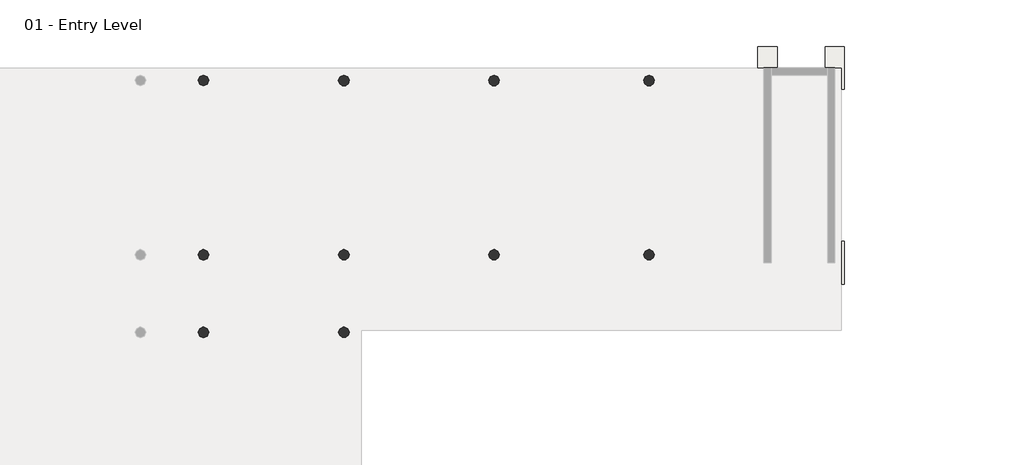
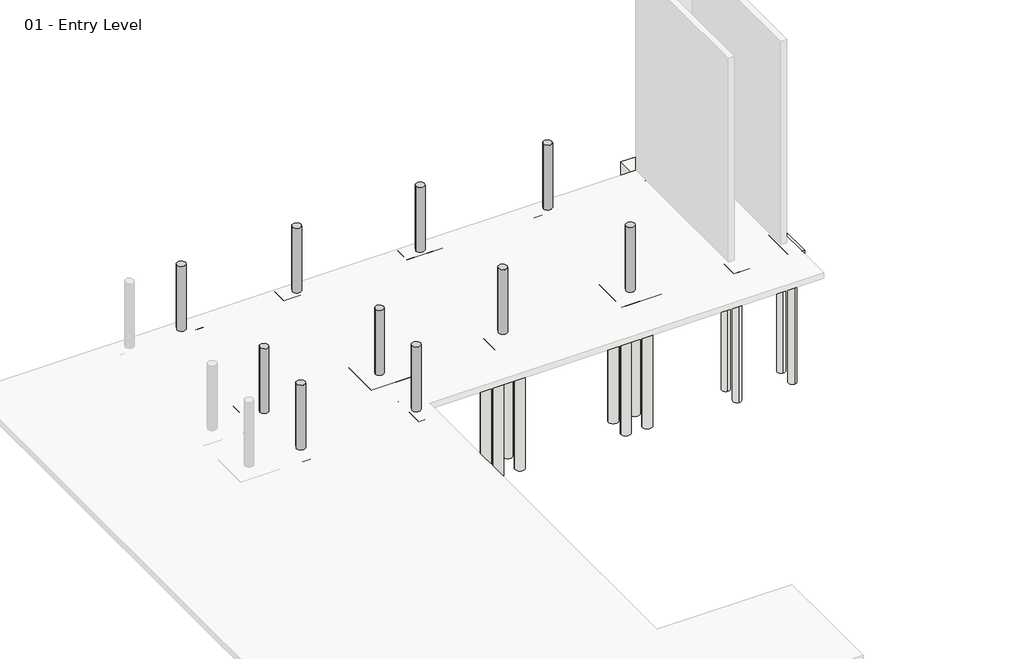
# One storey, part 6 of 6: 52 slabs, 10 columns.
"""IFC4 building model written with IfcOpenShell, lengths in millimetres."""

from ifc_helpers import new_model, si_unit, point, frame, frame_2d, origin, origin_with_axes, place, context, project, spatial, polyline, circle_curve, trimmed, segment, composite_curve, outline, extrude, element, save

model = new_model("IFC4")

# Units and contexts
model_context = context("Model", 3, world=origin())
ifc_project = project(units=[si_unit("LENGTHUNIT", "METRE", prefix="MILLI")], contexts=[model_context])

# Site, building, storey
site = spatial("IfcSite", under=ifc_project)
building = spatial("IfcBuilding", under=site)
storey = spatial("IfcBuildingStorey", under=building, Name="01 - Entry Level", Elevation=0.0)

# Columns
placement = place(None, origin())
element("IfcColumn", 1, ObjectType="M_Concrete-Round-Column : 450mm", at=placement, inside=storey, context=model_context, shape_type="SweptSolid", body=[
    extrude(outline(composite_curve([segment(trimmed(circle_curve(frame_2d((754.8005584, 29993.7386199)), 225.0), [point((979.8005584, 29993.7386199))], [point((529.8005584, 29993.7386199))], False, "CARTESIAN"), True, "CONTINUOUS"), segment(trimmed(circle_curve(frame_2d((754.8005584, 29993.7386199)), 225.0), [point((529.8005584, 29993.7386199))], [point((979.8005584, 29993.7386199))], False, "CARTESIAN"), True, "CONTINUOUS")], self_intersect=False)), origin_with_axes(), (0.0, 0.0, 1.0), 3500.0),
])
element("IfcColumn", 2, ObjectType="M_Concrete-Round-Column : 450mm", at=placement, inside=storey, context=model_context, shape_type="SweptSolid", body=[
    extrude(outline(composite_curve([segment(trimmed(circle_curve(frame_2d((754.8005584, 22678.5386199)), 225.0), [point((979.8005584, 22678.5386199))], [point((529.8005584, 22678.5386199))], False, "CARTESIAN"), True, "CONTINUOUS"), segment(trimmed(circle_curve(frame_2d((754.8005584, 22678.5386199)), 225.0), [point((529.8005584, 22678.5386199))], [point((979.8005584, 22678.5386199))], False, "CARTESIAN"), True, "CONTINUOUS")], self_intersect=False)), origin_with_axes(), (0.0, 0.0, 1.0), 3500.0),
])
element("IfcColumn", 3, ObjectType="M_Concrete-Round-Column : 450mm", at=placement, inside=storey, context=model_context, shape_type="SweptSolid", body=[
    extrude(outline(composite_curve([segment(trimmed(circle_curve(frame_2d((754.8005584, 19427.3386199)), 225.0), [point((979.8005584, 19427.3386199))], [point((529.8005584, 19427.3386199))], False, "CARTESIAN"), True, "CONTINUOUS"), segment(trimmed(circle_curve(frame_2d((754.8005584, 19427.3386199)), 225.0), [point((529.8005584, 19427.3386199))], [point((979.8005584, 19427.3386199))], False, "CARTESIAN"), True, "CONTINUOUS")], self_intersect=False)), origin_with_axes(), (0.0, 0.0, 1.0), 3500.0),
])
element("IfcColumn", 4, ObjectType="M_Concrete-Round-Column : 450mm", at=placement, inside=storey, context=model_context, shape_type="SweptSolid", body=[
    extrude(outline(composite_curve([segment(trimmed(circle_curve(frame_2d((6647.6005584, 29993.7386199)), 225.0), [point((6872.6005584, 29993.7386199))], [point((6422.6005584, 29993.7386199))], False, "CARTESIAN"), True, "CONTINUOUS"), segment(trimmed(circle_curve(frame_2d((6647.6005584, 29993.7386199)), 225.0), [point((6422.6005584, 29993.7386199))], [point((6872.6005584, 29993.7386199))], False, "CARTESIAN"), True, "CONTINUOUS")], self_intersect=False)), origin_with_axes(), (0.0, 0.0, 1.0), 3500.0),
])
element("IfcColumn", 5, ObjectType="M_Concrete-Round-Column : 450mm", at=placement, inside=storey, context=model_context, shape_type="SweptSolid", body=[
    extrude(outline(composite_curve([segment(trimmed(circle_curve(frame_2d((6647.6005584, 22678.5386199)), 225.0), [point((6872.6005584, 22678.5386199))], [point((6422.6005584, 22678.5386199))], False, "CARTESIAN"), True, "CONTINUOUS"), segment(trimmed(circle_curve(frame_2d((6647.6005584, 22678.5386199)), 225.0), [point((6422.6005584, 22678.5386199))], [point((6872.6005584, 22678.5386199))], False, "CARTESIAN"), True, "CONTINUOUS")], self_intersect=False)), origin_with_axes(), (0.0, 0.0, 1.0), 3500.0),
])
element("IfcColumn", 6, ObjectType="M_Concrete-Round-Column : 450mm", at=placement, inside=storey, context=model_context, shape_type="SweptSolid", body=[
    extrude(outline(composite_curve([segment(trimmed(circle_curve(frame_2d((6647.6005584, 19427.3386199)), 225.0), [point((6872.6005584, 19427.3386199))], [point((6422.6005584, 19427.3386199))], False, "CARTESIAN"), True, "CONTINUOUS"), segment(trimmed(circle_curve(frame_2d((6647.6005584, 19427.3386199)), 225.0), [point((6422.6005584, 19427.3386199))], [point((6872.6005584, 19427.3386199))], False, "CARTESIAN"), True, "CONTINUOUS")], self_intersect=False)), origin_with_axes(), (0.0, 0.0, 1.0), 3500.0),
])
element("IfcColumn", 7, ObjectType="M_Concrete-Round-Column : 450mm", at=placement, inside=storey, context=model_context, shape_type="SweptSolid", body=[
    extrude(outline(composite_curve([segment(trimmed(circle_curve(frame_2d((12946.8005584, 29993.7386199)), 225.0), [point((13171.8005584, 29993.7386199))], [point((12721.8005584, 29993.7386199))], False, "CARTESIAN"), True, "CONTINUOUS"), segment(trimmed(circle_curve(frame_2d((12946.8005584, 29993.7386199)), 225.0), [point((12721.8005584, 29993.7386199))], [point((13171.8005584, 29993.7386199))], False, "CARTESIAN"), True, "CONTINUOUS")], self_intersect=False)), origin_with_axes(), (0.0, 0.0, 1.0), 3500.0),
])
element("IfcColumn", 8, ObjectType="M_Concrete-Round-Column : 450mm", at=placement, inside=storey, context=model_context, shape_type="SweptSolid", body=[
    extrude(outline(composite_curve([segment(trimmed(circle_curve(frame_2d((12946.8005584, 22678.5386199)), 225.0), [point((13171.8005584, 22678.5386199))], [point((12721.8005584, 22678.5386199))], False, "CARTESIAN"), True, "CONTINUOUS"), segment(trimmed(circle_curve(frame_2d((12946.8005584, 22678.5386199)), 225.0), [point((12721.8005584, 22678.5386199))], [point((13171.8005584, 22678.5386199))], False, "CARTESIAN"), True, "CONTINUOUS")], self_intersect=False)), origin_with_axes(), (0.0, 0.0, 1.0), 3500.0),
])
element("IfcColumn", 9, ObjectType="M_Concrete-Round-Column : 450mm", at=placement, inside=storey, context=model_context, shape_type="SweptSolid", body=[
    extrude(outline(composite_curve([segment(trimmed(circle_curve(frame_2d((19449.2005584, 29993.7386199)), 225.0), [point((19674.2005584, 29993.7386199))], [point((19224.2005584, 29993.7386199))], False, "CARTESIAN"), True, "CONTINUOUS"), segment(trimmed(circle_curve(frame_2d((19449.2005584, 29993.7386199)), 225.0), [point((19224.2005584, 29993.7386199))], [point((19674.2005584, 29993.7386199))], False, "CARTESIAN"), True, "CONTINUOUS")], self_intersect=False)), origin_with_axes(), (0.0, 0.0, 1.0), 3500.0),
])
element("IfcColumn", 10, ObjectType="M_Concrete-Round-Column : 450mm", at=placement, inside=storey, context=model_context, shape_type="SweptSolid", body=[
    extrude(outline(composite_curve([segment(trimmed(circle_curve(frame_2d((19449.2005584, 22678.5386199)), 225.0), [point((19674.2005584, 22678.5386199))], [point((19224.2005584, 22678.5386199))], False, "CARTESIAN"), True, "CONTINUOUS"), segment(trimmed(circle_curve(frame_2d((19449.2005584, 22678.5386199)), 225.0), [point((19224.2005584, 22678.5386199))], [point((19674.2005584, 22678.5386199))], False, "CARTESIAN"), True, "CONTINUOUS")], self_intersect=False)), origin_with_axes(), (0.0, 0.0, 1.0), 3500.0),
])

# Slabs
element("IfcSlab", 11, ObjectType="M_Pile Cap-2 Pile : 800 x 1800 x 900mm", at=placement, inside=storey, context=model_context, shape_type="SweptSolid", body=[
    extrude(outline(polyline([(1654.8005584, 30393.7386199), (1654.8005584, 29593.7386199), (-145.1994416, 29593.7386199), (-145.1994416, 30393.7386199), (1654.8005584, 30393.7386199)])), frame((0.0, 0.0, -1200.0), z_axis=(0.0, 0.0, 1.0), x_axis=(1.0, 0.0, 0.0)), (0.0, 0.0, 1.0), 1200.0),
])
element("IfcSlab", 12, ObjectType="M_Pile Cap-2 Pile : 800 x 1800 x 900mm", at=placement, inside=storey, context=model_context, shape_type="SweptSolid", body=[
    extrude(outline(polyline([(7547.6005584, 30393.7386199), (7547.6005584, 29593.7386199), (5747.6005584, 29593.7386199), (5747.6005584, 30393.7386199), (7547.6005584, 30393.7386199)])), frame((0.0, 0.0, -1200.0), z_axis=(0.0, 0.0, 1.0), x_axis=(1.0, 0.0, 0.0)), (0.0, 0.0, 1.0), 1200.0),
])
element("IfcSlab", 13, ObjectType="M_Pile Cap-2 Pile : 800 x 1800 x 900mm", at=placement, inside=storey, context=model_context, shape_type="SweptSolid", body=[
    extrude(outline(polyline([(13846.8005584, 30393.7386199), (13846.8005584, 29593.7386199), (12046.8005584, 29593.7386199), (12046.8005584, 30393.7386199), (13846.8005584, 30393.7386199)])), frame((0.0, 0.0, -1200.0), z_axis=(0.0, 0.0, 1.0), x_axis=(1.0, 0.0, 0.0)), (0.0, 0.0, 1.0), 1200.0),
])
element("IfcSlab", 14, ObjectType="M_Pile Cap-2 Pile : 800 x 1800 x 900mm", at=placement, inside=storey, context=model_context, shape_type="SweptSolid", body=[
    extrude(outline(polyline([(20349.2005584, 30393.7386199), (20349.2005584, 29593.7386199), (18549.2005584, 29593.7386199), (18549.2005584, 30393.7386199), (20349.2005584, 30393.7386199)])), frame((0.0, 0.0, -1200.0), z_axis=(0.0, 0.0, 1.0), x_axis=(1.0, 0.0, 0.0)), (0.0, 0.0, 1.0), 1200.0),
])
element("IfcSlab", 15, ObjectType="M_Pile Cap-2 Pile : 800 x 1800 x 900mm", at=placement, inside=storey, context=model_context, shape_type="SweptSolid", body=[
    extrude(outline(polyline([(24018.8999097, 23239.0407562), (24818.8999097, 23239.0407562), (24818.8999097, 21439.0407562), (24018.8999097, 21439.0407562), (24018.8999097, 23239.0407562)])), frame((0.0, 0.0, -1200.0), z_axis=(0.0, 0.0, 1.0), x_axis=(1.0, 0.0, 0.0)), (0.0, 0.0, 1.0), 1200.0),
])
element("IfcSlab", 16, ObjectType="M_Pile Cap-2 Pile : 800 x 1800 x 900mm", at=placement, inside=storey, context=model_context, shape_type="SweptSolid", body=[
    extrude(outline(polyline([(26846.5321953, 23239.0407562), (27646.5321953, 23239.0407562), (27646.5321953, 21439.0407562), (26846.5321953, 21439.0407562), (26846.5321953, 23239.0407562)])), frame((0.0, 0.0, -1200.0), z_axis=(0.0, 0.0, 1.0), x_axis=(1.0, 0.0, 0.0)), (0.0, 0.0, 1.0), 1200.0),
])
element("IfcSlab", 17, ObjectType="M_Pile Cap-2 Pile : 800 x 1800 x 900mm", at=placement, inside=storey, context=model_context, shape_type="SweptSolid", body=[
    extrude(outline(polyline([(24018.8999097, 31414.0407562), (24818.8999097, 31414.0407562), (24818.8999097, 29614.0407562), (24018.8999097, 29614.0407562), (24018.8999097, 31414.0407562)])), frame((0.0, 0.0, -1200.0), z_axis=(0.0, 0.0, 1.0), x_axis=(1.0, 0.0, 0.0)), (0.0, 0.0, 1.0), 1200.0),
])
element("IfcSlab", 18, ObjectType="M_Pile Cap-2 Pile : 800 x 1800 x 900mm", at=placement, inside=storey, context=model_context, shape_type="SweptSolid", body=[
    extrude(outline(polyline([(26846.5321953, 31414.0407562), (27646.5321953, 31414.0407562), (27646.5321953, 29614.0407562), (26846.5321953, 29614.0407562), (26846.5321953, 31414.0407562)])), frame((0.0, 0.0, -1200.0), z_axis=(0.0, 0.0, 1.0), x_axis=(1.0, 0.0, 0.0)), (0.0, 0.0, 1.0), 1200.0),
])
element("IfcSlab", 19, ObjectType="M_Pile Cap-2 Pile : 800 x 1800 x 900mm", at=placement, inside=storey, context=model_context, shape_type="SweptSolid", body=[
    extrude(outline(polyline([(6247.6005584, 20327.3386199), (7047.6005584, 20327.3386199), (7047.6005584, 18527.3386199), (6247.6005584, 18527.3386199), (6247.6005584, 20327.3386199)])), frame((0.0, 0.0, -1200.0), z_axis=(0.0, 0.0, 1.0), x_axis=(1.0, 0.0, 0.0)), (0.0, 0.0, 1.0), 1200.0),
])
element("IfcSlab", 20, ObjectType="M_Pile Cap-4 Pile : 2000 x 2000 x 900mm", at=placement, inside=storey, context=model_context, shape_type="SweptSolid", body=[
    extrude(outline(polyline([(1754.8005584, 23678.5386199), (1754.8005584, 21678.5386199), (-245.1994416, 21678.5386199), (-245.1994416, 23678.5386199), (1754.8005584, 23678.5386199)])), frame((0.0, 0.0, -1200.0), z_axis=(0.0, 0.0, 1.0), x_axis=(1.0, 0.0, 0.0)), (0.0, 0.0, 1.0), 1200.0),
])
element("IfcSlab", 21, ObjectType="M_Pile Cap-4 Pile : 2000 x 2000 x 900mm", at=placement, inside=storey, context=model_context, shape_type="SweptSolid", body=[
    extrude(outline(polyline([(7647.6005584, 23678.5386199), (7647.6005584, 21678.5386199), (5647.6005584, 21678.5386199), (5647.6005584, 23678.5386199), (7647.6005584, 23678.5386199)])), frame((0.0, 0.0, -1200.0), z_axis=(0.0, 0.0, 1.0), x_axis=(1.0, 0.0, 0.0)), (0.0, 0.0, 1.0), 1200.0),
])
element("IfcSlab", 22, ObjectType="M_Pile Cap-4 Pile : 2000 x 2000 x 900mm", at=placement, inside=storey, context=model_context, shape_type="SweptSolid", body=[
    extrude(outline(polyline([(13946.8005584, 23678.5386199), (13946.8005584, 21678.5386199), (11946.8005584, 21678.5386199), (11946.8005584, 23678.5386199), (13946.8005584, 23678.5386199)])), frame((0.0, 0.0, -1200.0), z_axis=(0.0, 0.0, 1.0), x_axis=(1.0, 0.0, 0.0)), (0.0, 0.0, 1.0), 1200.0),
])
element("IfcSlab", 23, ObjectType="M_Pile Cap-4 Pile : 2000 x 2000 x 900mm", at=placement, inside=storey, context=model_context, shape_type="SweptSolid", body=[
    extrude(outline(polyline([(20449.2005584, 23678.5386199), (20449.2005584, 21678.5386199), (18449.2005584, 21678.5386199), (18449.2005584, 23678.5386199), (20449.2005584, 23678.5386199)])), frame((0.0, 0.0, -1200.0), z_axis=(0.0, 0.0, 1.0), x_axis=(1.0, 0.0, 0.0)), (0.0, 0.0, 1.0), 1200.0),
])
element("IfcSlab", 24, ObjectType="M_Pile Cap-4 Pile : 2000 x 2000 x 900mm", at=placement, inside=storey, context=model_context, shape_type="SweptSolid", body=[
    extrude(outline(polyline([(1754.8005584, 20427.3386199), (1754.8005584, 18427.3386199), (-245.1994416, 18427.3386199), (-245.1994416, 20427.3386199), (1754.8005584, 20427.3386199)])), frame((0.0, 0.0, -1200.0), z_axis=(0.0, 0.0, 1.0), x_axis=(1.0, 0.0, 0.0)), (0.0, 0.0, 1.0), 1200.0),
])
element("IfcSlab", 25, ObjectType="M_Pile-Steel Pipe : 400mm Diameter", at=placement, inside=storey, context=model_context, shape_type="SweptSolid", body=[
    extrude(outline(composite_curve([segment(trimmed(circle_curve(frame_2d((254.8005584, 29993.7386199)), 200.0), [point((54.8005584, 29993.7386199))], [point((454.8005584, 29993.7386199))], False, "CARTESIAN"), True, "CONTINUOUS"), segment(trimmed(circle_curve(frame_2d((254.8005584, 29993.7386199)), 200.0), [point((454.8005584, 29993.7386199))], [point((54.8005584, 29993.7386199))], False, "CARTESIAN"), True, "CONTINUOUS")], self_intersect=False)), frame((0.0, 0.0, -7200.0), z_axis=(0.0, 0.0, 1.0), x_axis=(1.0, 0.0, 0.0)), (0.0, 0.0, 1.0), 6000.0),
])
element("IfcSlab", 26, ObjectType="M_Pile-Steel Pipe : 400mm Diameter", at=placement, inside=storey, context=model_context, shape_type="SweptSolid", body=[
    extrude(outline(composite_curve([segment(trimmed(circle_curve(frame_2d((1254.8005584, 29993.7386199)), 200.0), [point((1054.8005584, 29993.7386199))], [point((1454.8005584, 29993.7386199))], False, "CARTESIAN"), True, "CONTINUOUS"), segment(trimmed(circle_curve(frame_2d((1254.8005584, 29993.7386199)), 200.0), [point((1454.8005584, 29993.7386199))], [point((1054.8005584, 29993.7386199))], False, "CARTESIAN"), True, "CONTINUOUS")], self_intersect=False)), frame((0.0, 0.0, -7200.0), z_axis=(0.0, 0.0, 1.0), x_axis=(1.0, 0.0, 0.0)), (0.0, 0.0, 1.0), 6000.0),
])
element("IfcSlab", 27, ObjectType="M_Pile-Steel Pipe : 400mm Diameter", at=placement, inside=storey, context=model_context, shape_type="SweptSolid", body=[
    extrude(outline(composite_curve([segment(trimmed(circle_curve(frame_2d((6147.6005584, 29993.7386199)), 200.0), [point((5947.6005584, 29993.7386199))], [point((6347.6005584, 29993.7386199))], False, "CARTESIAN"), True, "CONTINUOUS"), segment(trimmed(circle_curve(frame_2d((6147.6005584, 29993.7386199)), 200.0), [point((6347.6005584, 29993.7386199))], [point((5947.6005584, 29993.7386199))], False, "CARTESIAN"), True, "CONTINUOUS")], self_intersect=False)), frame((0.0, 0.0, -7200.0), z_axis=(0.0, 0.0, 1.0), x_axis=(1.0, 0.0, 0.0)), (0.0, 0.0, 1.0), 6000.0),
])
element("IfcSlab", 28, ObjectType="M_Pile-Steel Pipe : 400mm Diameter", at=placement, inside=storey, context=model_context, shape_type="SweptSolid", body=[
    extrude(outline(composite_curve([segment(trimmed(circle_curve(frame_2d((7147.6005584, 29993.7386199)), 200.0), [point((6947.6005584, 29993.7386199))], [point((7347.6005584, 29993.7386199))], False, "CARTESIAN"), True, "CONTINUOUS"), segment(trimmed(circle_curve(frame_2d((7147.6005584, 29993.7386199)), 200.0), [point((7347.6005584, 29993.7386199))], [point((6947.6005584, 29993.7386199))], False, "CARTESIAN"), True, "CONTINUOUS")], self_intersect=False)), frame((0.0, 0.0, -7200.0), z_axis=(0.0, 0.0, 1.0), x_axis=(1.0, 0.0, 0.0)), (0.0, 0.0, 1.0), 6000.0),
])
element("IfcSlab", 29, ObjectType="M_Pile-Steel Pipe : 400mm Diameter", at=placement, inside=storey, context=model_context, shape_type="SweptSolid", body=[
    extrude(outline(composite_curve([segment(trimmed(circle_curve(frame_2d((12446.8005584, 29993.7386199)), 200.0), [point((12246.8005584, 29993.7386199))], [point((12646.8005584, 29993.7386199))], False, "CARTESIAN"), True, "CONTINUOUS"), segment(trimmed(circle_curve(frame_2d((12446.8005584, 29993.7386199)), 200.0), [point((12646.8005584, 29993.7386199))], [point((12246.8005584, 29993.7386199))], False, "CARTESIAN"), True, "CONTINUOUS")], self_intersect=False)), frame((0.0, 0.0, -7200.0), z_axis=(0.0, 0.0, 1.0), x_axis=(1.0, 0.0, 0.0)), (0.0, 0.0, 1.0), 6000.0),
])
element("IfcSlab", 30, ObjectType="M_Pile-Steel Pipe : 400mm Diameter", at=placement, inside=storey, context=model_context, shape_type="SweptSolid", body=[
    extrude(outline(composite_curve([segment(trimmed(circle_curve(frame_2d((13446.8005584, 29993.7386199)), 200.0), [point((13246.8005584, 29993.7386199))], [point((13646.8005584, 29993.7386199))], False, "CARTESIAN"), True, "CONTINUOUS"), segment(trimmed(circle_curve(frame_2d((13446.8005584, 29993.7386199)), 200.0), [point((13646.8005584, 29993.7386199))], [point((13246.8005584, 29993.7386199))], False, "CARTESIAN"), True, "CONTINUOUS")], self_intersect=False)), frame((0.0, 0.0, -7200.0), z_axis=(0.0, 0.0, 1.0), x_axis=(1.0, 0.0, 0.0)), (0.0, 0.0, 1.0), 6000.0),
])
element("IfcSlab", 31, ObjectType="M_Pile-Steel Pipe : 400mm Diameter", at=placement, inside=storey, context=model_context, shape_type="SweptSolid", body=[
    extrude(outline(composite_curve([segment(trimmed(circle_curve(frame_2d((18949.2005584, 29993.7386199)), 200.0), [point((18749.2005584, 29993.7386199))], [point((19149.2005584, 29993.7386199))], False, "CARTESIAN"), True, "CONTINUOUS"), segment(trimmed(circle_curve(frame_2d((18949.2005584, 29993.7386199)), 200.0), [point((19149.2005584, 29993.7386199))], [point((18749.2005584, 29993.7386199))], False, "CARTESIAN"), True, "CONTINUOUS")], self_intersect=False)), frame((0.0, 0.0, -7200.0), z_axis=(0.0, 0.0, 1.0), x_axis=(1.0, 0.0, 0.0)), (0.0, 0.0, 1.0), 6000.0),
])
element("IfcSlab", 32, ObjectType="M_Pile-Steel Pipe : 400mm Diameter", at=placement, inside=storey, context=model_context, shape_type="SweptSolid", body=[
    extrude(outline(composite_curve([segment(trimmed(circle_curve(frame_2d((19949.2005584, 29993.7386199)), 200.0), [point((19749.2005584, 29993.7386199))], [point((20149.2005584, 29993.7386199))], False, "CARTESIAN"), True, "CONTINUOUS"), segment(trimmed(circle_curve(frame_2d((19949.2005584, 29993.7386199)), 200.0), [point((20149.2005584, 29993.7386199))], [point((19749.2005584, 29993.7386199))], False, "CARTESIAN"), True, "CONTINUOUS")], self_intersect=False)), frame((0.0, 0.0, -7200.0), z_axis=(0.0, 0.0, 1.0), x_axis=(1.0, 0.0, 0.0)), (0.0, 0.0, 1.0), 6000.0),
])
element("IfcSlab", 33, ObjectType="M_Pile-Steel Pipe : 400mm Diameter", at=placement, inside=storey, context=model_context, shape_type="SweptSolid", body=[
    extrude(outline(composite_curve([segment(trimmed(circle_curve(frame_2d((24418.8999097, 21839.0407562)), 200.0), [point((24418.8999097, 21639.0407562))], [point((24418.8999097, 22039.0407562))], False, "CARTESIAN"), True, "CONTINUOUS"), segment(trimmed(circle_curve(frame_2d((24418.8999097, 21839.0407562)), 200.0), [point((24418.8999097, 22039.0407562))], [point((24418.8999097, 21639.0407562))], False, "CARTESIAN"), True, "CONTINUOUS")], self_intersect=False)), frame((0.0, 0.0, -7200.0), z_axis=(0.0, 0.0, 1.0), x_axis=(1.0, 0.0, 0.0)), (0.0, 0.0, 1.0), 6000.0),
])
element("IfcSlab", 34, ObjectType="M_Pile-Steel Pipe : 400mm Diameter", at=placement, inside=storey, context=model_context, shape_type="SweptSolid", body=[
    extrude(outline(composite_curve([segment(trimmed(circle_curve(frame_2d((24418.8999097, 22839.0407562)), 200.0), [point((24418.8999097, 22639.0407562))], [point((24418.8999097, 23039.0407562))], False, "CARTESIAN"), True, "CONTINUOUS"), segment(trimmed(circle_curve(frame_2d((24418.8999097, 22839.0407562)), 200.0), [point((24418.8999097, 23039.0407562))], [point((24418.8999097, 22639.0407562))], False, "CARTESIAN"), True, "CONTINUOUS")], self_intersect=False)), frame((0.0, 0.0, -7200.0), z_axis=(0.0, 0.0, 1.0), x_axis=(1.0, 0.0, 0.0)), (0.0, 0.0, 1.0), 6000.0),
])
element("IfcSlab", 35, ObjectType="M_Pile-Steel Pipe : 400mm Diameter", at=placement, inside=storey, context=model_context, shape_type="SweptSolid", body=[
    extrude(outline(composite_curve([segment(trimmed(circle_curve(frame_2d((27246.5321953, 21839.0407562)), 200.0), [point((27246.5321953, 21639.0407562))], [point((27246.5321953, 22039.0407562))], False, "CARTESIAN"), True, "CONTINUOUS"), segment(trimmed(circle_curve(frame_2d((27246.5321953, 21839.0407562)), 200.0), [point((27246.5321953, 22039.0407562))], [point((27246.5321953, 21639.0407562))], False, "CARTESIAN"), True, "CONTINUOUS")], self_intersect=False)), frame((0.0, 0.0, -7200.0), z_axis=(0.0, 0.0, 1.0), x_axis=(1.0, 0.0, 0.0)), (0.0, 0.0, 1.0), 6000.0),
])
element("IfcSlab", 36, ObjectType="M_Pile-Steel Pipe : 400mm Diameter", at=placement, inside=storey, context=model_context, shape_type="SweptSolid", body=[
    extrude(outline(composite_curve([segment(trimmed(circle_curve(frame_2d((27246.5321953, 22839.0407562)), 200.0), [point((27246.5321953, 22639.0407562))], [point((27246.5321953, 23039.0407562))], False, "CARTESIAN"), True, "CONTINUOUS"), segment(trimmed(circle_curve(frame_2d((27246.5321953, 22839.0407562)), 200.0), [point((27246.5321953, 23039.0407562))], [point((27246.5321953, 22639.0407562))], False, "CARTESIAN"), True, "CONTINUOUS")], self_intersect=False)), frame((0.0, 0.0, -7200.0), z_axis=(0.0, 0.0, 1.0), x_axis=(1.0, 0.0, 0.0)), (0.0, 0.0, 1.0), 6000.0),
])
element("IfcSlab", 37, ObjectType="M_Pile-Steel Pipe : 400mm Diameter", at=placement, inside=storey, context=model_context, shape_type="SweptSolid", body=[
    extrude(outline(composite_curve([segment(trimmed(circle_curve(frame_2d((24418.8999097, 30014.0407562)), 200.0), [point((24418.8999097, 29814.0407562))], [point((24418.8999097, 30214.0407562))], False, "CARTESIAN"), True, "CONTINUOUS"), segment(trimmed(circle_curve(frame_2d((24418.8999097, 30014.0407562)), 200.0), [point((24418.8999097, 30214.0407562))], [point((24418.8999097, 29814.0407562))], False, "CARTESIAN"), True, "CONTINUOUS")], self_intersect=False)), frame((0.0, 0.0, -7200.0), z_axis=(0.0, 0.0, 1.0), x_axis=(1.0, 0.0, 0.0)), (0.0, 0.0, 1.0), 6000.0),
])
element("IfcSlab", 38, ObjectType="M_Pile-Steel Pipe : 400mm Diameter", at=placement, inside=storey, context=model_context, shape_type="SweptSolid", body=[
    extrude(outline(composite_curve([segment(trimmed(circle_curve(frame_2d((24418.8999097, 31014.0407562)), 200.0), [point((24418.8999097, 30814.0407562))], [point((24418.8999097, 31214.0407562))], False, "CARTESIAN"), True, "CONTINUOUS"), segment(trimmed(circle_curve(frame_2d((24418.8999097, 31014.0407562)), 200.0), [point((24418.8999097, 31214.0407562))], [point((24418.8999097, 30814.0407562))], False, "CARTESIAN"), True, "CONTINUOUS")], self_intersect=False)), frame((0.0, 0.0, -7200.0), z_axis=(0.0, 0.0, 1.0), x_axis=(1.0, 0.0, 0.0)), (0.0, 0.0, 1.0), 6000.0),
])
element("IfcSlab", 39, ObjectType="M_Pile-Steel Pipe : 400mm Diameter", at=placement, inside=storey, context=model_context, shape_type="SweptSolid", body=[
    extrude(outline(composite_curve([segment(trimmed(circle_curve(frame_2d((27246.5321953, 30014.0407562)), 200.0), [point((27246.5321953, 29814.0407562))], [point((27246.5321953, 30214.0407562))], False, "CARTESIAN"), True, "CONTINUOUS"), segment(trimmed(circle_curve(frame_2d((27246.5321953, 30014.0407562)), 200.0), [point((27246.5321953, 30214.0407562))], [point((27246.5321953, 29814.0407562))], False, "CARTESIAN"), True, "CONTINUOUS")], self_intersect=False)), frame((0.0, 0.0, -7200.0), z_axis=(0.0, 0.0, 1.0), x_axis=(1.0, 0.0, 0.0)), (0.0, 0.0, 1.0), 6000.0),
])
element("IfcSlab", 40, ObjectType="M_Pile-Steel Pipe : 400mm Diameter", at=placement, inside=storey, context=model_context, shape_type="SweptSolid", body=[
    extrude(outline(composite_curve([segment(trimmed(circle_curve(frame_2d((27246.5321953, 31014.0407562)), 200.0), [point((27246.5321953, 30814.0407562))], [point((27246.5321953, 31214.0407562))], False, "CARTESIAN"), True, "CONTINUOUS"), segment(trimmed(circle_curve(frame_2d((27246.5321953, 31014.0407562)), 200.0), [point((27246.5321953, 31214.0407562))], [point((27246.5321953, 30814.0407562))], False, "CARTESIAN"), True, "CONTINUOUS")], self_intersect=False)), frame((0.0, 0.0, -7200.0), z_axis=(0.0, 0.0, 1.0), x_axis=(1.0, 0.0, 0.0)), (0.0, 0.0, 1.0), 6000.0),
])
element("IfcSlab", 41, ObjectType="M_Pile-Steel Pipe : 400mm Diameter", at=placement, inside=storey, context=model_context, shape_type="SweptSolid", body=[
    extrude(outline(composite_curve([segment(trimmed(circle_curve(frame_2d((6647.6005584, 18927.3386199)), 200.0), [point((6647.6005584, 18727.3386199))], [point((6647.6005584, 19127.3386199))], False, "CARTESIAN"), True, "CONTINUOUS"), segment(trimmed(circle_curve(frame_2d((6647.6005584, 18927.3386199)), 200.0), [point((6647.6005584, 19127.3386199))], [point((6647.6005584, 18727.3386199))], False, "CARTESIAN"), True, "CONTINUOUS")], self_intersect=False)), frame((0.0, 0.0, -7200.0), z_axis=(0.0, 0.0, 1.0), x_axis=(1.0, 0.0, 0.0)), (0.0, 0.0, 1.0), 6000.0),
])
element("IfcSlab", 42, ObjectType="M_Pile-Steel Pipe : 400mm Diameter", at=placement, inside=storey, context=model_context, shape_type="SweptSolid", body=[
    extrude(outline(composite_curve([segment(trimmed(circle_curve(frame_2d((6647.6005584, 19927.3386199)), 200.0), [point((6647.6005584, 19727.3386199))], [point((6647.6005584, 20127.3386199))], False, "CARTESIAN"), True, "CONTINUOUS"), segment(trimmed(circle_curve(frame_2d((6647.6005584, 19927.3386199)), 200.0), [point((6647.6005584, 20127.3386199))], [point((6647.6005584, 19727.3386199))], False, "CARTESIAN"), True, "CONTINUOUS")], self_intersect=False)), frame((0.0, 0.0, -7200.0), z_axis=(0.0, 0.0, 1.0), x_axis=(1.0, 0.0, 0.0)), (0.0, 0.0, 1.0), 6000.0),
])
element("IfcSlab", 43, ObjectType="M_Pile-Steel Pipe : 500mm Diameter", at=placement, inside=storey, context=model_context, shape_type="SweptSolid", body=[
    extrude(outline(composite_curve([segment(trimmed(circle_curve(frame_2d((204.8005584, 22128.5386199)), 250.0), [point((-45.1994416, 22128.5386199))], [point((454.8005584, 22128.5386199))], False, "CARTESIAN"), True, "CONTINUOUS"), segment(trimmed(circle_curve(frame_2d((204.8005584, 22128.5386199)), 250.0), [point((454.8005584, 22128.5386199))], [point((-45.1994416, 22128.5386199))], False, "CARTESIAN"), True, "CONTINUOUS")], self_intersect=False)), frame((0.0, 0.0, -7200.0), z_axis=(0.0, 0.0, 1.0), x_axis=(1.0, 0.0, 0.0)), (0.0, 0.0, 1.0), 6000.0),
])
element("IfcSlab", 44, ObjectType="M_Pile-Steel Pipe : 500mm Diameter", at=placement, inside=storey, context=model_context, shape_type="SweptSolid", body=[
    extrude(outline(composite_curve([segment(trimmed(circle_curve(frame_2d((1304.8005584, 22128.5386199)), 250.0), [point((1054.8005584, 22128.5386199))], [point((1554.8005584, 22128.5386199))], False, "CARTESIAN"), True, "CONTINUOUS"), segment(trimmed(circle_curve(frame_2d((1304.8005584, 22128.5386199)), 250.0), [point((1554.8005584, 22128.5386199))], [point((1054.8005584, 22128.5386199))], False, "CARTESIAN"), True, "CONTINUOUS")], self_intersect=False)), frame((0.0, 0.0, -7200.0), z_axis=(0.0, 0.0, 1.0), x_axis=(1.0, 0.0, 0.0)), (0.0, 0.0, 1.0), 6000.0),
])
element("IfcSlab", 45, ObjectType="M_Pile-Steel Pipe : 500mm Diameter", at=placement, inside=storey, context=model_context, shape_type="SweptSolid", body=[
    extrude(outline(composite_curve([segment(trimmed(circle_curve(frame_2d((1304.8005584, 23228.5386199)), 250.0), [point((1054.8005584, 23228.5386199))], [point((1554.8005584, 23228.5386199))], False, "CARTESIAN"), True, "CONTINUOUS"), segment(trimmed(circle_curve(frame_2d((1304.8005584, 23228.5386199)), 250.0), [point((1554.8005584, 23228.5386199))], [point((1054.8005584, 23228.5386199))], False, "CARTESIAN"), True, "CONTINUOUS")], self_intersect=False)), frame((0.0, 0.0, -7200.0), z_axis=(0.0, 0.0, 1.0), x_axis=(1.0, 0.0, 0.0)), (0.0, 0.0, 1.0), 6000.0),
])
element("IfcSlab", 46, ObjectType="M_Pile-Steel Pipe : 500mm Diameter", at=placement, inside=storey, context=model_context, shape_type="SweptSolid", body=[
    extrude(outline(composite_curve([segment(trimmed(circle_curve(frame_2d((204.8005584, 23228.5386199)), 250.0), [point((-45.1994416, 23228.5386199))], [point((454.8005584, 23228.5386199))], False, "CARTESIAN"), True, "CONTINUOUS"), segment(trimmed(circle_curve(frame_2d((204.8005584, 23228.5386199)), 250.0), [point((454.8005584, 23228.5386199))], [point((-45.1994416, 23228.5386199))], False, "CARTESIAN"), True, "CONTINUOUS")], self_intersect=False)), frame((0.0, 0.0, -7200.0), z_axis=(0.0, 0.0, 1.0), x_axis=(1.0, 0.0, 0.0)), (0.0, 0.0, 1.0), 6000.0),
])
element("IfcSlab", 47, ObjectType="M_Pile-Steel Pipe : 500mm Diameter", at=placement, inside=storey, context=model_context, shape_type="SweptSolid", body=[
    extrude(outline(composite_curve([segment(trimmed(circle_curve(frame_2d((6097.6005584, 22128.5386199)), 250.0), [point((5847.6005584, 22128.5386199))], [point((6347.6005584, 22128.5386199))], False, "CARTESIAN"), True, "CONTINUOUS"), segment(trimmed(circle_curve(frame_2d((6097.6005584, 22128.5386199)), 250.0), [point((6347.6005584, 22128.5386199))], [point((5847.6005584, 22128.5386199))], False, "CARTESIAN"), True, "CONTINUOUS")], self_intersect=False)), frame((0.0, 0.0, -7200.0), z_axis=(0.0, 0.0, 1.0), x_axis=(1.0, 0.0, 0.0)), (0.0, 0.0, 1.0), 6000.0),
])
element("IfcSlab", 48, ObjectType="M_Pile-Steel Pipe : 500mm Diameter", at=placement, inside=storey, context=model_context, shape_type="SweptSolid", body=[
    extrude(outline(composite_curve([segment(trimmed(circle_curve(frame_2d((7197.6005584, 22128.5386199)), 250.0), [point((6947.6005584, 22128.5386199))], [point((7447.6005584, 22128.5386199))], False, "CARTESIAN"), True, "CONTINUOUS"), segment(trimmed(circle_curve(frame_2d((7197.6005584, 22128.5386199)), 250.0), [point((7447.6005584, 22128.5386199))], [point((6947.6005584, 22128.5386199))], False, "CARTESIAN"), True, "CONTINUOUS")], self_intersect=False)), frame((0.0, 0.0, -7200.0), z_axis=(0.0, 0.0, 1.0), x_axis=(1.0, 0.0, 0.0)), (0.0, 0.0, 1.0), 6000.0),
])
element("IfcSlab", 49, ObjectType="M_Pile-Steel Pipe : 500mm Diameter", at=placement, inside=storey, context=model_context, shape_type="SweptSolid", body=[
    extrude(outline(composite_curve([segment(trimmed(circle_curve(frame_2d((7197.6005584, 23228.5386199)), 250.0), [point((6947.6005584, 23228.5386199))], [point((7447.6005584, 23228.5386199))], False, "CARTESIAN"), True, "CONTINUOUS"), segment(trimmed(circle_curve(frame_2d((7197.6005584, 23228.5386199)), 250.0), [point((7447.6005584, 23228.5386199))], [point((6947.6005584, 23228.5386199))], False, "CARTESIAN"), True, "CONTINUOUS")], self_intersect=False)), frame((0.0, 0.0, -7200.0), z_axis=(0.0, 0.0, 1.0), x_axis=(1.0, 0.0, 0.0)), (0.0, 0.0, 1.0), 6000.0),
])
element("IfcSlab", 50, ObjectType="M_Pile-Steel Pipe : 500mm Diameter", at=placement, inside=storey, context=model_context, shape_type="SweptSolid", body=[
    extrude(outline(composite_curve([segment(trimmed(circle_curve(frame_2d((6097.6005584, 23228.5386199)), 250.0), [point((5847.6005584, 23228.5386199))], [point((6347.6005584, 23228.5386199))], False, "CARTESIAN"), True, "CONTINUOUS"), segment(trimmed(circle_curve(frame_2d((6097.6005584, 23228.5386199)), 250.0), [point((6347.6005584, 23228.5386199))], [point((5847.6005584, 23228.5386199))], False, "CARTESIAN"), True, "CONTINUOUS")], self_intersect=False)), frame((0.0, 0.0, -7200.0), z_axis=(0.0, 0.0, 1.0), x_axis=(1.0, 0.0, 0.0)), (0.0, 0.0, 1.0), 6000.0),
])
element("IfcSlab", 51, ObjectType="M_Pile-Steel Pipe : 500mm Diameter", at=placement, inside=storey, context=model_context, shape_type="SweptSolid", body=[
    extrude(outline(composite_curve([segment(trimmed(circle_curve(frame_2d((12396.8005584, 22128.5386199)), 250.0), [point((12146.8005584, 22128.5386199))], [point((12646.8005584, 22128.5386199))], False, "CARTESIAN"), True, "CONTINUOUS"), segment(trimmed(circle_curve(frame_2d((12396.8005584, 22128.5386199)), 250.0), [point((12646.8005584, 22128.5386199))], [point((12146.8005584, 22128.5386199))], False, "CARTESIAN"), True, "CONTINUOUS")], self_intersect=False)), frame((0.0, 0.0, -7200.0), z_axis=(0.0, 0.0, 1.0), x_axis=(1.0, 0.0, 0.0)), (0.0, 0.0, 1.0), 6000.0),
])
element("IfcSlab", 52, ObjectType="M_Pile-Steel Pipe : 500mm Diameter", at=placement, inside=storey, context=model_context, shape_type="SweptSolid", body=[
    extrude(outline(composite_curve([segment(trimmed(circle_curve(frame_2d((13496.8005584, 22128.5386199)), 250.0), [point((13246.8005584, 22128.5386199))], [point((13746.8005584, 22128.5386199))], False, "CARTESIAN"), True, "CONTINUOUS"), segment(trimmed(circle_curve(frame_2d((13496.8005584, 22128.5386199)), 250.0), [point((13746.8005584, 22128.5386199))], [point((13246.8005584, 22128.5386199))], False, "CARTESIAN"), True, "CONTINUOUS")], self_intersect=False)), frame((0.0, 0.0, -7200.0), z_axis=(0.0, 0.0, 1.0), x_axis=(1.0, 0.0, 0.0)), (0.0, 0.0, 1.0), 6000.0),
])
element("IfcSlab", 53, ObjectType="M_Pile-Steel Pipe : 500mm Diameter", at=placement, inside=storey, context=model_context, shape_type="SweptSolid", body=[
    extrude(outline(composite_curve([segment(trimmed(circle_curve(frame_2d((13496.8005584, 23228.5386199)), 250.0), [point((13246.8005584, 23228.5386199))], [point((13746.8005584, 23228.5386199))], False, "CARTESIAN"), True, "CONTINUOUS"), segment(trimmed(circle_curve(frame_2d((13496.8005584, 23228.5386199)), 250.0), [point((13746.8005584, 23228.5386199))], [point((13246.8005584, 23228.5386199))], False, "CARTESIAN"), True, "CONTINUOUS")], self_intersect=False)), frame((0.0, 0.0, -7200.0), z_axis=(0.0, 0.0, 1.0), x_axis=(1.0, 0.0, 0.0)), (0.0, 0.0, 1.0), 6000.0),
])
element("IfcSlab", 54, ObjectType="M_Pile-Steel Pipe : 500mm Diameter", at=placement, inside=storey, context=model_context, shape_type="SweptSolid", body=[
    extrude(outline(composite_curve([segment(trimmed(circle_curve(frame_2d((12396.8005584, 23228.5386199)), 250.0), [point((12146.8005584, 23228.5386199))], [point((12646.8005584, 23228.5386199))], False, "CARTESIAN"), True, "CONTINUOUS"), segment(trimmed(circle_curve(frame_2d((12396.8005584, 23228.5386199)), 250.0), [point((12646.8005584, 23228.5386199))], [point((12146.8005584, 23228.5386199))], False, "CARTESIAN"), True, "CONTINUOUS")], self_intersect=False)), frame((0.0, 0.0, -7200.0), z_axis=(0.0, 0.0, 1.0), x_axis=(1.0, 0.0, 0.0)), (0.0, 0.0, 1.0), 6000.0),
])
element("IfcSlab", 55, ObjectType="M_Pile-Steel Pipe : 500mm Diameter", at=placement, inside=storey, context=model_context, shape_type="SweptSolid", body=[
    extrude(outline(composite_curve([segment(trimmed(circle_curve(frame_2d((18899.2005584, 22128.5386199)), 250.0), [point((18649.2005584, 22128.5386199))], [point((19149.2005584, 22128.5386199))], False, "CARTESIAN"), True, "CONTINUOUS"), segment(trimmed(circle_curve(frame_2d((18899.2005584, 22128.5386199)), 250.0), [point((19149.2005584, 22128.5386199))], [point((18649.2005584, 22128.5386199))], False, "CARTESIAN"), True, "CONTINUOUS")], self_intersect=False)), frame((0.0, 0.0, -7200.0), z_axis=(0.0, 0.0, 1.0), x_axis=(1.0, 0.0, 0.0)), (0.0, 0.0, 1.0), 6000.0),
])
element("IfcSlab", 56, ObjectType="M_Pile-Steel Pipe : 500mm Diameter", at=placement, inside=storey, context=model_context, shape_type="SweptSolid", body=[
    extrude(outline(composite_curve([segment(trimmed(circle_curve(frame_2d((19999.2005584, 22128.5386199)), 250.0), [point((19749.2005584, 22128.5386199))], [point((20249.2005584, 22128.5386199))], False, "CARTESIAN"), True, "CONTINUOUS"), segment(trimmed(circle_curve(frame_2d((19999.2005584, 22128.5386199)), 250.0), [point((20249.2005584, 22128.5386199))], [point((19749.2005584, 22128.5386199))], False, "CARTESIAN"), True, "CONTINUOUS")], self_intersect=False)), frame((0.0, 0.0, -7200.0), z_axis=(0.0, 0.0, 1.0), x_axis=(1.0, 0.0, 0.0)), (0.0, 0.0, 1.0), 6000.0),
])
element("IfcSlab", 57, ObjectType="M_Pile-Steel Pipe : 500mm Diameter", at=placement, inside=storey, context=model_context, shape_type="SweptSolid", body=[
    extrude(outline(composite_curve([segment(trimmed(circle_curve(frame_2d((19999.2005584, 23228.5386199)), 250.0), [point((19749.2005584, 23228.5386199))], [point((20249.2005584, 23228.5386199))], False, "CARTESIAN"), True, "CONTINUOUS"), segment(trimmed(circle_curve(frame_2d((19999.2005584, 23228.5386199)), 250.0), [point((20249.2005584, 23228.5386199))], [point((19749.2005584, 23228.5386199))], False, "CARTESIAN"), True, "CONTINUOUS")], self_intersect=False)), frame((0.0, 0.0, -7200.0), z_axis=(0.0, 0.0, 1.0), x_axis=(1.0, 0.0, 0.0)), (0.0, 0.0, 1.0), 6000.0),
])
element("IfcSlab", 58, ObjectType="M_Pile-Steel Pipe : 500mm Diameter", at=placement, inside=storey, context=model_context, shape_type="SweptSolid", body=[
    extrude(outline(composite_curve([segment(trimmed(circle_curve(frame_2d((18899.2005584, 23228.5386199)), 250.0), [point((18649.2005584, 23228.5386199))], [point((19149.2005584, 23228.5386199))], False, "CARTESIAN"), True, "CONTINUOUS"), segment(trimmed(circle_curve(frame_2d((18899.2005584, 23228.5386199)), 250.0), [point((19149.2005584, 23228.5386199))], [point((18649.2005584, 23228.5386199))], False, "CARTESIAN"), True, "CONTINUOUS")], self_intersect=False)), frame((0.0, 0.0, -7200.0), z_axis=(0.0, 0.0, 1.0), x_axis=(1.0, 0.0, 0.0)), (0.0, 0.0, 1.0), 6000.0),
])
element("IfcSlab", 59, ObjectType="M_Pile-Steel Pipe : 500mm Diameter", at=placement, inside=storey, context=model_context, shape_type="SweptSolid", body=[
    extrude(outline(composite_curve([segment(trimmed(circle_curve(frame_2d((204.8005584, 18877.3386199)), 250.0), [point((-45.1994416, 18877.3386199))], [point((454.8005584, 18877.3386199))], False, "CARTESIAN"), True, "CONTINUOUS"), segment(trimmed(circle_curve(frame_2d((204.8005584, 18877.3386199)), 250.0), [point((454.8005584, 18877.3386199))], [point((-45.1994416, 18877.3386199))], False, "CARTESIAN"), True, "CONTINUOUS")], self_intersect=False)), frame((0.0, 0.0, -7200.0), z_axis=(0.0, 0.0, 1.0), x_axis=(1.0, 0.0, 0.0)), (0.0, 0.0, 1.0), 6000.0),
])
element("IfcSlab", 60, ObjectType="M_Pile-Steel Pipe : 500mm Diameter", at=placement, inside=storey, context=model_context, shape_type="SweptSolid", body=[
    extrude(outline(composite_curve([segment(trimmed(circle_curve(frame_2d((1304.8005584, 18877.3386199)), 250.0), [point((1054.8005584, 18877.3386199))], [point((1554.8005584, 18877.3386199))], False, "CARTESIAN"), True, "CONTINUOUS"), segment(trimmed(circle_curve(frame_2d((1304.8005584, 18877.3386199)), 250.0), [point((1554.8005584, 18877.3386199))], [point((1054.8005584, 18877.3386199))], False, "CARTESIAN"), True, "CONTINUOUS")], self_intersect=False)), frame((0.0, 0.0, -7200.0), z_axis=(0.0, 0.0, 1.0), x_axis=(1.0, 0.0, 0.0)), (0.0, 0.0, 1.0), 6000.0),
])
element("IfcSlab", 61, ObjectType="M_Pile-Steel Pipe : 500mm Diameter", at=placement, inside=storey, context=model_context, shape_type="SweptSolid", body=[
    extrude(outline(composite_curve([segment(trimmed(circle_curve(frame_2d((1304.8005584, 19977.3386199)), 250.0), [point((1054.8005584, 19977.3386199))], [point((1554.8005584, 19977.3386199))], False, "CARTESIAN"), True, "CONTINUOUS"), segment(trimmed(circle_curve(frame_2d((1304.8005584, 19977.3386199)), 250.0), [point((1554.8005584, 19977.3386199))], [point((1054.8005584, 19977.3386199))], False, "CARTESIAN"), True, "CONTINUOUS")], self_intersect=False)), frame((0.0, 0.0, -7200.0), z_axis=(0.0, 0.0, 1.0), x_axis=(1.0, 0.0, 0.0)), (0.0, 0.0, 1.0), 6000.0),
])
element("IfcSlab", 62, ObjectType="M_Pile-Steel Pipe : 500mm Diameter", at=placement, inside=storey, context=model_context, shape_type="SweptSolid", body=[
    extrude(outline(composite_curve([segment(trimmed(circle_curve(frame_2d((204.8005584, 19977.3386199)), 250.0), [point((-45.1994416, 19977.3386199))], [point((454.8005584, 19977.3386199))], False, "CARTESIAN"), True, "CONTINUOUS"), segment(trimmed(circle_curve(frame_2d((204.8005584, 19977.3386199)), 250.0), [point((454.8005584, 19977.3386199))], [point((-45.1994416, 19977.3386199))], False, "CARTESIAN"), True, "CONTINUOUS")], self_intersect=False)), frame((0.0, 0.0, -7200.0), z_axis=(0.0, 0.0, 1.0), x_axis=(1.0, 0.0, 0.0)), (0.0, 0.0, 1.0), 6000.0),
])

save(model, "model.ifc")
